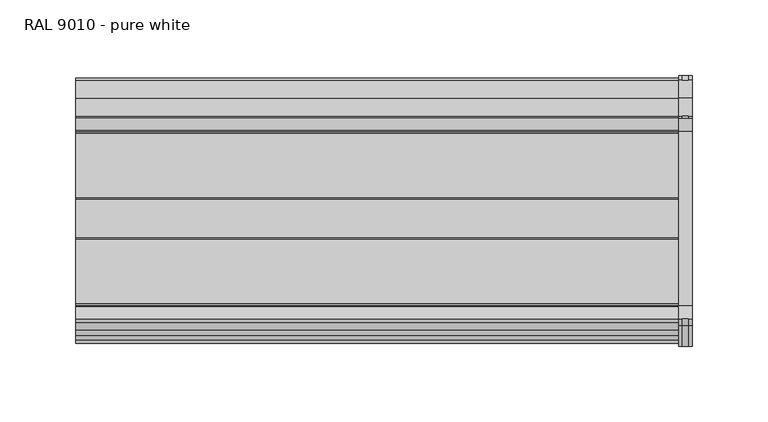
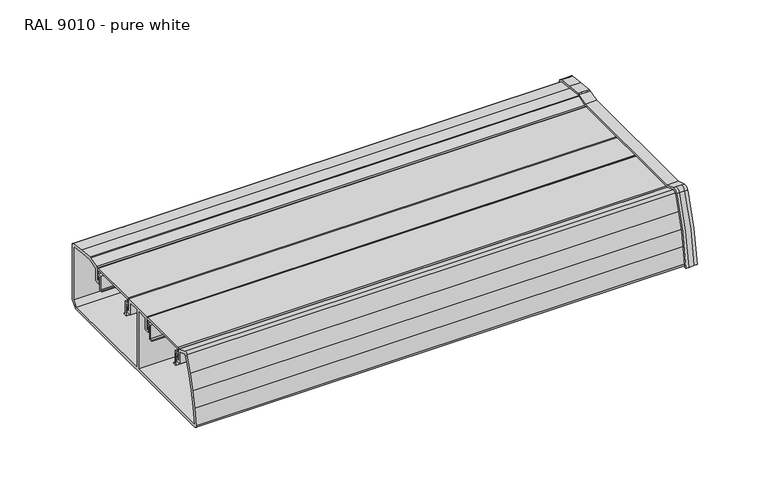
"""IFC4 building model written with IfcOpenShell, lengths in millimetres: proxy geometry, Electrical_Installations_Hager_GBD-Curved-Lid-End-Cap : RAL 9010 - pure white."""

import ifcopenshell
import ifcopenshell.guid

model = None  # the IFC model being written
_history = None  # IfcOwnerHistory: only IFC2X3 demands one
_inside = {}  # id of a spatial element -> (the spatial element, [elements in it])
_under = {}  # id of a project, library or spatial element -> (it, [spatial elements below it])
_declared = {}  # id of a project -> (the project, [libraries it declares])
_typed = {}  # id of a type object -> (the type object, [elements of that type])
_made_of = {}  # id of a material, layer set ... -> (it, [elements and type objects made of it])


def new_model(schema):
    """Start an empty IFC model of exactly this schema.

    Asked for "IFC4X3", IfcOpenShell would pick the latest addendum, in which some entities
    have other attributes; the version numbers below select the first issue.
    IFC2X3 requires an IfcOwnerHistory on every rooted entity: one is made here for all.
    """
    global model, _history
    if schema == "IFC4X3":
        model = ifcopenshell.file(schema_version=(4, 3, 0, 0))
    else:
        model = ifcopenshell.file(schema=schema)
    _inside.clear()
    _under.clear()
    _declared.clear()
    _typed.clear()
    _made_of.clear()
    _history = None
    if model.schema == "IFC2X3":
        org = make("IfcOrganization", Name="unknown")
        user = make(
            "IfcPersonAndOrganization",
            ThePerson=make("IfcPerson", FamilyName="unknown"),
            TheOrganization=org,
        )
        app = make(
            "IfcApplication",
            ApplicationDeveloper=org,
            Version="unknown",
            ApplicationFullName="unknown",
            ApplicationIdentifier="unknown",
        )
        _history = make(
            "IfcOwnerHistory",
            OwningUser=user,
            OwningApplication=app,
            ChangeAction="ADDED",
            CreationDate=0,
        )
    return model


def make(cls, **values):
    """One entity of the class cls with the attributes given. An attribute that is None is left unset."""
    return model.create_entity(
        cls, **{name: value for name, value in values.items() if value is not None}
    )


def rooted(cls, **values):
    """An entity with a GlobalId (a new one), such as an element, a storey or a relation."""
    return make(cls, GlobalId=ifcopenshell.guid.new(), OwnerHistory=_history, **values)


def si_unit(unit_type, name, prefix=None):
    """IfcSIUnit, for example si_unit("LENGTHUNIT", "METRE", prefix="MILLI")."""
    return make("IfcSIUnit", UnitType=unit_type, Prefix=prefix, Name=name)


def assignment(units):
    """IfcUnitAssignment: the units of a project."""
    return None if units is None else make("IfcUnitAssignment", Units=units)


def point(xyz):
    """IfcCartesianPoint."""
    return None if xyz is None else make("IfcCartesianPoint", Coordinates=xyz)


def direction(xyz):
    """IfcDirection."""
    return None if xyz is None else make("IfcDirection", DirectionRatios=xyz)


def frame(location, z_axis=None, x_axis=None):
    """IfcAxis2Placement3D, a coordinate frame: its origin and axes. An axis left out is left unset."""
    return make(
        "IfcAxis2Placement3D",
        Location=point(location),
        Axis=direction(z_axis),
        RefDirection=direction(x_axis),
    )


def frame_2d(location, x_axis=None):
    """IfcAxis2Placement2D, a coordinate frame in the plane: its origin and x axis."""
    return make(
        "IfcAxis2Placement2D", Location=point(location), RefDirection=direction(x_axis)
    )


def origin():
    """The frame at (0, 0, 0) with its axes left unset."""
    return frame((0.0, 0.0, 0.0))


def place(relative_to, where):
    """IfcLocalPlacement: puts the frame where relative to a parent placement (None: the world)."""
    return make(
        "IfcLocalPlacement", PlacementRelTo=relative_to, RelativePlacement=where
    )


def context(
    kind, dimensions, precision=None, world=None, true_north=None, identifier=None
):
    """IfcGeometricRepresentationContext, for example the 3D "Model" context."""
    return make(
        "IfcGeometricRepresentationContext",
        ContextIdentifier=identifier,
        ContextType=kind,
        CoordinateSpaceDimension=dimensions,
        Precision=precision,
        WorldCoordinateSystem=world,
        TrueNorth=true_north,
    )


def project(units=None, contexts=None):
    """IfcProject with its units and contexts."""
    return rooted(
        "IfcProject",
        Name="project",
        RepresentationContexts=contexts,
        UnitsInContext=assignment(units),
    )


def spatial(cls, under=None, at=None, **own):
    """A site, building, storey or space (cls), placed at a placement, below another one or the project."""
    s = rooted(cls, ObjectPlacement=at, **own)
    if under is not None:
        _under.setdefault(under.id(), (under, []))[1].append(s)
    return s


def polyline(points):
    """IfcPolyline through the points."""
    return make("IfcPolyline", Points=[point(p) for p in points])


def circle_curve(where, radius):
    """IfcCircle in the frame where."""
    return make("IfcCircle", Position=where, Radius=radius)


def trimmed(basis, trim1, trim2, sense, master):
    """IfcTrimmedCurve: the piece of a basis curve between two trims."""
    return make(
        "IfcTrimmedCurve",
        BasisCurve=basis,
        Trim1=trim1,
        Trim2=trim2,
        SenseAgreement=sense,
        MasterRepresentation=master,
    )


def segment(curve, same_sense, transition):
    """IfcCompositeCurveSegment."""
    return make(
        "IfcCompositeCurveSegment",
        Transition=transition,
        SameSense=same_sense,
        ParentCurve=curve,
    )


def composite_curve(segments, self_intersect=None):
    """IfcCompositeCurve: segments joined end to end."""
    return make("IfcCompositeCurve", Segments=segments, SelfIntersect=self_intersect)


def outline(outer, holes=None, kind="AREA"):
    """IfcArbitraryClosedProfileDef: a profile drawn as a closed curve; with holes, ...WithVoids."""
    if holes is None:
        return make("IfcArbitraryClosedProfileDef", ProfileType=kind, OuterCurve=outer)
    return make(
        "IfcArbitraryProfileDefWithVoids",
        ProfileType=kind,
        OuterCurve=outer,
        InnerCurves=holes,
    )


def extrude(swept, where, along, depth):
    """IfcExtrudedAreaSolid: the profile swept, set in the frame where, extruded along a direction by depth."""
    return make(
        "IfcExtrudedAreaSolid",
        SweptArea=swept,
        Position=where,
        ExtrudedDirection=direction(along),
        Depth=depth,
    )


def shape(context_of_items, identifier, shape_type, items):
    """IfcShapeRepresentation: the items that make up one representation, for example the "Body"."""
    return make(
        "IfcShapeRepresentation",
        ContextOfItems=context_of_items,
        RepresentationIdentifier=identifier,
        RepresentationType=shape_type,
        Items=items,
    )


def source(mapping_origin, context_of_items, identifier, shape_type, items):
    """IfcRepresentationMap: a shape defined once, which mapped items show again and again."""
    return make(
        "IfcRepresentationMap",
        MappingOrigin=mapping_origin,
        MappedRepresentation=shape(context_of_items, identifier, shape_type, items),
    )


def transform(
    local_origin,
    x_axis=None,
    y_axis=None,
    z_axis=None,
    scale=None,
    scale2=None,
    scale3=None,
    uniform=True,
):
    """IfcCartesianTransformationOperator3D, or its non-uniform kind. x_axis, y_axis, z_axis: its Axis1, 2, 3."""
    if uniform:
        return make(
            "IfcCartesianTransformationOperator3D",
            Axis1=direction(x_axis),
            Axis2=direction(y_axis),
            LocalOrigin=point(local_origin),
            Scale=scale,
            Axis3=direction(z_axis),
        )
    return make(
        "IfcCartesianTransformationOperator3DnonUniform",
        Axis1=direction(x_axis),
        Axis2=direction(y_axis),
        LocalOrigin=point(local_origin),
        Scale=scale,
        Axis3=direction(z_axis),
        Scale2=scale2,
        Scale3=scale3,
    )


def mapped(mapping_source, mapping_target):
    """IfcMappedItem: shows the shape of a source again, moved by a transform."""
    return make(
        "IfcMappedItem", MappingSource=mapping_source, MappingTarget=mapping_target
    )


def made_of(thing, what):
    """Note that an element or type object is made of a material, layer set ...; save() writes the relation."""
    if what is not None:
        _made_of.setdefault(what.id(), (what, []))[1].append(thing)
    return thing


def element(
    cls,
    number,
    at=None,
    inside=None,
    cuts=None,
    type_object=None,
    material=None,
    context=None,
    identifier="Body",
    shape_type=None,
    held_by="IfcProductDefinitionShape",
    body=None,
    shapes=None,
    **own,
):
    """One element of the class cls, such as IfcWall. Its Tag is "e" and its number.

    at: its placement. inside: the storey or other place that contains it. cuts: it is an
    opening in that element (IfcRelVoidsElement). A single representation is given by context,
    identifier, shape_type and body (its items); several are given by shapes. held_by: the class
    of the entity that holds the representations. save() writes the other relations.
    """
    e = rooted(cls, Tag="e%d" % number, ObjectPlacement=at, **own)
    if body is not None:
        shapes = [shape(context, identifier, shape_type, body)]
    if shapes is not None:
        e.Representation = make(held_by, Representations=shapes)
    if inside is not None:
        _inside.setdefault(inside.id(), (inside, []))[1].append(e)
    if cuts is not None:
        rooted(
            "IfcRelVoidsElement", RelatingBuildingElement=cuts, RelatedOpeningElement=e
        )
    if type_object is not None:
        _typed.setdefault(type_object.id(), (type_object, []))[1].append(e)
    return made_of(e, material)


def aggregate(whole, parts):
    """IfcRelAggregates: a whole, such as a stair, and the parts it consists of."""
    return rooted("IfcRelAggregates", RelatingObject=whole, RelatedObjects=parts)


def save(model, path):
    """Write the relations noted so far, then the file.

    IfcRelAggregates (storeys below a building ...), IfcRelContainedInSpatialStructure (elements
    in a storey), IfcRelDefinesByType, IfcRelAssociatesMaterial and IfcRelDeclares: one each for
    every whole, place, type object, material and project.
    """
    for whole, parts in _under.values():
        aggregate(whole, parts)
    for where, things in _inside.values():
        rooted(
            "IfcRelContainedInSpatialStructure",
            RelatedElements=things,
            RelatingStructure=where,
        )
    for kind, things in _typed.values():
        rooted("IfcRelDefinesByType", RelatedObjects=things, RelatingType=kind)
    for what, things in _made_of.values():
        rooted("IfcRelAssociatesMaterial", RelatedObjects=things, RelatingMaterial=what)
    for by, libraries in _declared.values():
        rooted("IfcRelDeclares", RelatingContext=by, RelatedDefinitions=libraries)
    model.write(path)


def plane_surface(at):
    """IfcPlane: the flat surface through the origin of the frame at, square to its z axis."""
    return make("IfcPlane", Position=at)


def cylinder_surface(at, radius):
    """IfcCylindricalSurface: all points at the distance radius from the z axis of the frame at."""
    return make("IfcCylindricalSurface", Position=at, Radius=radius)


def revolved_surface(curve, axis_point, axis_direction):
    """IfcSurfaceOfRevolution: the curve turned about the line through axis_point along axis_direction."""
    return make(
        "IfcSurfaceOfRevolution",
        SweptCurve=make("IfcArbitraryOpenProfileDef", ProfileType="CURVE", Curve=curve),
        AxisPosition=make("IfcAxis1Placement", Location=point(axis_point), Axis=direction(axis_direction)),
    )


def advanced_brep(points, edges, surfaces, faces):
    """IfcAdvancedBrep: a solid bounded by faces that lie on surfaces and meet in shared edges.

    An edge is (start, end): straight between two places in points (the first is 0);
    or (start, end, curve); or (start, end, curve, False) where it runs against its curve.
    A face is (place in surfaces, loops), or (place, loops, False) where it looks against
    its surface's normal. A loop lists edges by number (the first is 1), with a minus sign
    where the edge is run from its end to its start. The first loop is the outer one.
    """
    corners = [point(p) for p in points]
    vertices = [make("IfcVertexPoint", VertexGeometry=c) for c in corners]
    made = []
    for start, end, *more in edges:
        made.append(
            make(
                "IfcEdgeCurve",
                EdgeStart=vertices[start],
                EdgeEnd=vertices[end],
                EdgeGeometry=more[0] if more else make("IfcPolyline", Points=[corners[start], corners[end]]),
                SameSense=more[1] if len(more) > 1 else True,
            )
        )
    hull = []
    for where, loops, *sense in faces:
        bounds = []
        for j, loop in enumerate(loops):
            ring = [make("IfcOrientedEdge", EdgeElement=made[abs(k) - 1], Orientation=k > 0) for k in loop]
            bounds.append(
                make(
                    "IfcFaceOuterBound" if j == 0 else "IfcFaceBound",
                    Bound=make("IfcEdgeLoop", EdgeList=ring),
                    Orientation=True,
                )
            )
        hull.append(make("IfcAdvancedFace", Bounds=bounds, FaceSurface=surfaces[where], SameSense=sense[0] if sense else True))
    return make("IfcAdvancedBrep", Outer=make("IfcClosedShell", CfsFaces=hull))


def ral_9010_pure_white_73966b3e(model_context):
    return source(origin(), model_context, "Body", "SolidModel", [
        extrude(outline(composite_curve([segment(polyline([(-56.2971023, 12.5), (56.2971023, 12.5)]), True, "CONTINUOUS"), segment(trimmed(circle_curve(frame_2d((56.2971023, 11.6099434)), 0.8900566), [point((56.2971023, 12.5))], [point((57.1568309, 11.840307))], False, "CARTESIAN"), True, "CONTINUOUS"), segment(polyline([(57.1568309, 11.840307), (61.5409562, -4.5214711), (64.3769076, -20.8259828)]), True, "CONTINUOUS"), segment(trimmed(circle_curve(frame_2d((63.389468, -20.9977347)), 1.0022653), [point((64.3769076, -20.8259828))], [point((63.389468, -22.0))], False, "CARTESIAN"), True, "CONTINUOUS"), segment(polyline([(63.389468, -22.0), (-63.389468, -22.0)]), True, "CONTINUOUS"), segment(trimmed(circle_curve(frame_2d((-63.389468, -20.9977347)), 1.0022653), [point((-63.389468, -22.0))], [point((-64.3769076, -20.8259828))], False, "CARTESIAN"), True, "CONTINUOUS"), segment(polyline([(-64.3769076, -20.8259828), (-61.5409562, -4.5214711), (-57.1568309, 11.840307)]), True, "CONTINUOUS"), segment(trimmed(circle_curve(frame_2d((-56.2971023, 11.6099434)), 0.8900566), [point((-57.1568309, 11.840307))], [point((-56.2971023, 12.5))], False, "CARTESIAN"), True, "CONTINUOUS")], self_intersect=False)), frame((403.984375, 0.0, 0.0), z_axis=(1.0, 0.0, 0.0), x_axis=(0.0, 1.0, 0.0)), (0.0, 0.0, 1.0), 2.5),
        advanced_brep(
        [(400.0, 82.4790938, -27.0), (400.0, -87.950009, -27.0), (400.0, -74.7139057, 28.7218397), (400.0, -71.8616711, 30.0629995), (400.0, -63.0502646, 27.2), (400.0, 52.4374875, 27.2), (400.0, 61.1100703, 30.017893), (400.0, 62.6440579, 30.1926688), (400.0, 74.1080217, 29.1897019), (400.0, 85.7835434, 27.4641372), (400.0, 87.5716104, 25.3259929), (400.0, 87.5716104, -21.9074834), (403.984375, -87.950009, -27.0), (403.984375, 82.4790938, -27.0), (403.984375, 87.5716104, -21.9074834), (403.984375, 87.5716104, 25.3259929), (403.984375, 85.7835434, 27.4641372), (403.984375, 74.1080217, 29.1897019), (403.984375, 62.6440579, 30.1926688), (403.984375, 61.1100703, 30.017893), (403.984375, 52.4374875, 27.2), (403.984375, -63.0502646, 27.2), (403.984375, -71.8616711, 30.0629995), (403.984375, -74.7139057, 28.7218397), (400.0, 86.0170743, 28.9997666), (403.984375, 86.0170743, 28.9997666), (403.984375, 89.0716104, 25.3713094), (400.0, 89.0716104, 25.3713094), (406.484375, 89.0716104, 25.3713094), (406.484375, 89.0716104, -22.0), (397.484375, 89.0716104, -22.0), (397.484375, 89.0716104, 25.3713094), (406.484375, 84.0716104, -27.0), (397.484375, 84.0716104, -27.0), (406.484375, 82.4790938, -27.0), (406.484375, -87.950009, -27.0), (406.484375, -89.4534138, -27.0), (403.984375, -89.4534138, -27.0), (400.0, -89.4534138, -27.0), (397.484375, -89.4534138, -27.0), (397.484375, -87.950009, -27.0), (397.484375, 82.4790938, -27.0), (403.984375, -76.0707812, 29.3458662), (400.0, -76.0707812, 29.3458662), (403.984375, -71.4543472, 31.5078453), (400.0, -71.4543472, 31.5078453), (406.484375, -71.4543472, 31.5078453), (406.484375, -62.8126879, 28.7), (397.484375, -62.8126879, 28.7), (397.484375, -71.4543472, 31.5078453), (406.484375, 52.1999109, 28.7), (397.484375, 52.1999109, 28.7), (406.484375, 60.8066211, 31.4964897), (403.984375, 60.8066211, 31.4964897), (400.0, 60.8066211, 31.4964897), (397.484375, 60.8066211, 31.4964897), (403.984375, 62.4516475, 31.6839168), (400.0, 62.4516475, 31.6839168), (406.484375, 62.4516475, 31.6839168), (406.484375, 74.2844253, 30.6486828), (397.484375, 74.2844253, 30.6486828), (397.484375, 62.4516475, 31.6839168), (397.484375, 86.0170743, 28.9997666), (406.484375, 86.0170743, 28.9997666), (397.484375, 87.5716104, -21.9074834), (397.484375, 87.5716104, 25.3259929), (397.484375, 85.7835434, 27.4641372), (397.484375, 74.1080217, 29.1897019), (397.484375, 62.6440579, 30.1926688), (397.484375, 61.1100703, 30.017893), (397.484375, 52.4374875, 27.2), (397.484375, -63.0502646, 27.2), (397.484375, -71.8616711, 30.0629995), (397.484375, -74.7139057, 28.7218397), (397.484375, -76.0707812, 29.3458662), (406.484375, -76.0707812, 29.3458662), (406.484375, -74.7139057, 28.7218397), (406.484375, -71.8616711, 30.0629995), (406.484375, -63.0502646, 27.2), (406.484375, 52.4374875, 27.2), (406.484375, 61.1100703, 30.017893), (406.484375, 62.6440579, 30.1926688), (406.484375, 74.1080217, 29.1897019), (406.484375, 85.7835434, 27.4641372), (406.484375, 87.5716104, 25.3259929), (406.484375, 87.5716104, -21.9074834)],
        [
            (0, 1),
            (1, 2, circle_curve(frame((400.0, 110.3369957, -44.6679083), z_axis=(-1.0, 0.0, 0.0), x_axis=(0.0, 1.0, 0.0)), 199.0725777)),
            (2, 3, circle_curve(frame((400.0, -72.5732824, 27.8728851), z_axis=(-1.0, 0.0, 0.0), x_axis=(0.0, 1.0, 0.0)), 2.3028226)),
            (3, 4),
            (4, 5),
            (5, 6),
            (6, 7, circle_curve(frame((400.0, 62.3065893, 26.3353861), z_axis=(-1.0, 0.0, 0.0), x_axis=(0.0, 1.0, 0.0)), 3.8720169)),
            (7, 8),
            (8, 9),
            (9, 10, circle_curve(frame((400.0, 85.3991961, 25.3259929), z_axis=(-1.0, 0.0, 0.0), x_axis=(0.0, 1.0, 0.0)), 2.1724143)),
            (10, 11),
            (11, 0),
            (12, 13),
            (13, 14),
            (14, 15),
            (15, 16, circle_curve(frame((403.984375, 85.3991961, 25.3259929), z_axis=(1.0, 0.0, 0.0), x_axis=(0.0, 1.0, 0.0)), 2.1724143)),
            (16, 17),
            (17, 18),
            (18, 19, circle_curve(frame((403.984375, 62.3065893, 26.3353861), z_axis=(1.0, 0.0, 0.0), x_axis=(0.0, 1.0, 0.0)), 3.8720169)),
            (19, 20),
            (20, 21),
            (21, 22),
            (22, 23, circle_curve(frame((403.984375, -72.5732824, 27.8728851), z_axis=(1.0, 0.0, 0.0), x_axis=(0.0, 1.0, 0.0)), 2.3028226)),
            (23, 12, circle_curve(frame((403.984375, 110.3369957, -44.6679083), z_axis=(1.0, 0.0, 0.0), x_axis=(0.0, 1.0, 0.0)), 199.0725777)),
            (24, 25),
            (25, 26, circle_curve(frame((403.984375, 85.3892358, 25.3713094), z_axis=(-1.0, 0.0, 0.0), x_axis=(0.0, 1.0, 0.0)), 3.6823746)),
            (26, 27),
            (27, 24, circle_curve(frame((400.0, 85.3892358, 25.3713094), z_axis=(1.0, 0.0, 0.0), x_axis=(0.0, 1.0, 0.0)), 3.6823746)),
            (26, 28),
            (28, 29),
            (29, 30),
            (30, 31),
            (31, 27),
            (29, 32),
            (32, 33),
            (33, 30),
            (32, 34),
            (34, 13),
            (12, 35),
            (35, 36),
            (36, 37),
            (37, 38),
            (38, 39),
            (39, 40),
            (40, 1),
            (0, 41),
            (41, 33),
            (37, 42, circle_curve(frame((403.984375, 106.8832578, -43.8694858), z_axis=(-1.0, 0.0, 0.0), x_axis=(0.0, 1.0, 0.0)), 197.0600623)),
            (42, 43),
            (43, 38, circle_curve(frame((400.0, 106.8832578, -43.8694858), z_axis=(1.0, 0.0, 0.0), x_axis=(0.0, 1.0, 0.0)), 197.0600623)),
            (42, 44, circle_curve(frame((403.984375, -72.607181, 27.9597874), z_axis=(-1.0, 0.0, 0.0), x_axis=(0.0, 1.0, 0.0)), 3.7306488)),
            (44, 45),
            (45, 43, circle_curve(frame((400.0, -72.607181, 27.9597874), z_axis=(1.0, 0.0, 0.0), x_axis=(0.0, 1.0, 0.0)), 3.7306488)),
            (44, 46),
            (46, 47),
            (47, 48),
            (48, 49),
            (49, 45),
            (47, 50),
            (50, 51),
            (51, 48),
            (50, 52),
            (52, 53),
            (53, 54),
            (54, 55),
            (55, 51),
            (53, 56, circle_curve(frame((403.984375, 62.0897511, 27.5474216), z_axis=(-1.0, 0.0, 0.0), x_axis=(0.0, 1.0, 0.0)), 4.1522959)),
            (56, 57),
            (57, 54, circle_curve(frame((400.0, 62.0897511, 27.5474216), z_axis=(1.0, 0.0, 0.0), x_axis=(0.0, 1.0, 0.0)), 4.1522959)),
            (56, 58),
            (58, 59),
            (59, 60),
            (60, 61),
            (61, 57),
            (24, 62),
            (62, 60),
            (59, 63),
            (63, 25),
            (41, 64),
            (64, 65),
            (65, 66, circle_curve(frame((397.484375, 85.3991961, 25.3259929), z_axis=(1.0, 0.0, 0.0), x_axis=(0.0, 1.0, 0.0)), 2.1724143)),
            (66, 67),
            (67, 68),
            (68, 69, circle_curve(frame((397.484375, 62.3065893, 26.3353861), z_axis=(1.0, 0.0, 0.0), x_axis=(0.0, 1.0, 0.0)), 3.8720169)),
            (69, 70),
            (70, 71),
            (71, 72),
            (72, 73, circle_curve(frame((397.484375, -72.5732824, 27.8728851), z_axis=(1.0, 0.0, 0.0), x_axis=(0.0, 1.0, 0.0)), 2.3028226)),
            (73, 40, circle_curve(frame((397.484375, 110.3369957, -44.6679083), z_axis=(1.0, 0.0, 0.0), x_axis=(0.0, 1.0, 0.0)), 199.0725777)),
            (39, 74, circle_curve(frame((397.484375, 106.8832578, -43.8694858), z_axis=(-1.0, 0.0, 0.0), x_axis=(0.0, 1.0, 0.0)), 197.0600623)),
            (74, 49, circle_curve(frame((397.484375, -72.607181, 27.9597874), z_axis=(-1.0, 0.0, 0.0), x_axis=(0.0, 1.0, 0.0)), 3.7306488)),
            (55, 61, circle_curve(frame((397.484375, 62.0897511, 27.5474216), z_axis=(-1.0, 0.0, 0.0), x_axis=(0.0, 1.0, 0.0)), 4.1522959)),
            (62, 31, circle_curve(frame((397.484375, 85.3892358, 25.3713094), z_axis=(-1.0, 0.0, 0.0), x_axis=(0.0, 1.0, 0.0)), 3.6823746)),
            (28, 63, circle_curve(frame((406.484375, 85.3892358, 25.3713094), z_axis=(1.0, 0.0, 0.0), x_axis=(0.0, 1.0, 0.0)), 3.6823746)),
            (58, 52, circle_curve(frame((406.484375, 62.0897511, 27.5474216), z_axis=(1.0, 0.0, 0.0), x_axis=(0.0, 1.0, 0.0)), 4.1522959)),
            (46, 75, circle_curve(frame((406.484375, -72.607181, 27.9597874), z_axis=(1.0, 0.0, 0.0), x_axis=(0.0, 1.0, 0.0)), 3.7306488)),
            (75, 36, circle_curve(frame((406.484375, 106.8832578, -43.8694858), z_axis=(1.0, 0.0, 0.0), x_axis=(0.0, 1.0, 0.0)), 197.0600623)),
            (35, 76, circle_curve(frame((406.484375, 110.3369957, -44.6679083), z_axis=(-1.0, 0.0, 0.0), x_axis=(0.0, 1.0, 0.0)), 199.0725777)),
            (76, 77, circle_curve(frame((406.484375, -72.5732824, 27.8728851), z_axis=(-1.0, 0.0, 0.0), x_axis=(0.0, 1.0, 0.0)), 2.3028226)),
            (77, 78),
            (78, 79),
            (79, 80),
            (80, 81, circle_curve(frame((406.484375, 62.3065893, 26.3353861), z_axis=(-1.0, 0.0, 0.0), x_axis=(0.0, 1.0, 0.0)), 3.8720169)),
            (81, 82),
            (82, 83),
            (83, 84, circle_curve(frame((406.484375, 85.3991961, 25.3259929), z_axis=(-1.0, 0.0, 0.0), x_axis=(0.0, 1.0, 0.0)), 2.1724143)),
            (84, 85),
            (85, 34),
            (11, 64),
            (85, 14),
            (10, 65),
            (84, 15),
            (9, 66),
            (83, 16),
            (70, 5),
            (4, 71),
            (78, 21),
            (20, 79),
            (3, 72),
            (77, 22),
            (2, 73),
            (76, 23),
            (43, 74),
            (75, 42),
            (8, 67),
            (82, 17),
            (7, 68),
            (81, 18),
            (6, 69),
            (80, 19),
        ],
        [
            plane_surface(frame((400.0, 0.0, 0.0), z_axis=(-1.0, 0.0, 0.0), x_axis=(0.0, 0.0, 1.0))),
            plane_surface(frame((403.984375, 0.0, 0.0), z_axis=(1.0, 0.0, 0.0), x_axis=(0.0, 0.0, 1.0))),
            cylinder_surface(frame((400.0, 85.3892358, 25.3713094), z_axis=(-1.0, 0.0, 0.0), x_axis=(0.0, 1.0, 0.0)), 3.6823746),
            plane_surface(frame((400.0, 89.0716104, 25.3713094), z_axis=(0.0, 1.0, 0.0), x_axis=(1.0, 0.0, 0.0))),
            plane_surface(frame((400.0, 89.0716104, -22.0), z_axis=(0.0, 0.707106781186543, -0.707106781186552), x_axis=(1.0, 0.0, 0.0))),
            plane_surface(frame((400.0, 84.0716104, -27.0), z_axis=(0.0, 0.0, -1.0), x_axis=(1.0, 0.0, 0.0))),
            cylinder_surface(frame((400.0, 106.8832578, -43.8694858), z_axis=(-1.0, 0.0, 0.0), x_axis=(0.0, 1.0, 0.0)), 197.0600623),
            cylinder_surface(frame((400.0, -72.607181, 27.9597874), z_axis=(-1.0, 0.0, 0.0), x_axis=(0.0, 1.0, 0.0)), 3.7306488),
            plane_surface(frame((400.0, -71.4543472, 31.5078453), z_axis=(0.0, 0.30901699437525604, 0.9510565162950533), x_axis=(1.0, 0.0, 0.0))),
            plane_surface(frame((400.0, -62.8126879, 28.7), z_axis=(0.0, 0.0, 1.0), x_axis=(1.0, 0.0, 0.0))),
            plane_surface(frame((400.0, 52.1999109, 28.7), z_axis=(0.0, -0.30901699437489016, 0.9510565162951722), x_axis=(1.0, 0.0, 0.0))),
            cylinder_surface(frame((400.0, 62.0897511, 27.5474216), z_axis=(-1.0, 0.0, 0.0), x_axis=(0.0, 1.0, 0.0)), 4.1522959),
            plane_surface(frame((400.0, 62.4516475, 31.6839168), z_axis=(0.0, 0.0871557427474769, 0.9961946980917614), x_axis=(1.0, 0.0, 0.0))),
            plane_surface(frame((400.0, 74.2844253, 30.6486828), z_axis=(0.0, 0.1391731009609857, 0.990268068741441), x_axis=(1.0, 0.0, 0.0))),
            plane_surface(frame((397.484375, 0.0, 0.0), z_axis=(-1.0, 0.0, 0.0), x_axis=(0.0, 0.0, 1.0))),
            plane_surface(frame((406.484375, 0.0, 0.0), z_axis=(1.0, 0.0, 0.0), x_axis=(0.0, 0.0, 1.0))),
            cylinder_surface(frame((397.484375, 85.3892358, 25.3713094), z_axis=(-1.0, 0.0, 0.0), x_axis=(0.0, 1.0, 0.0)), 3.6823746),
            plane_surface(frame((397.484375, 82.4790938, -27.0), z_axis=(0.0, -0.7071067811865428, 0.7071067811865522), x_axis=(1.0, 0.0, 0.0))),
            plane_surface(frame((397.484375, 87.5716104, -21.9074834), z_axis=(0.0, -1.0, 0.0), x_axis=(1.0, 0.0, 0.0))),
            revolved_surface(polyline([(400.0, 87.5716104, 25.3259929), (397.484375, 87.5716104, 25.3259929)]), (397.484375, 85.3991961, 25.3259929), (1.0, 0.0, 0.0)),
            revolved_surface(polyline([(406.484375, 87.5716104, 25.3259929), (403.984375, 87.5716104, 25.3259929)]), (397.484375, 85.3991961, 25.3259929), (1.0, 0.0, 0.0)),
            plane_surface(frame((397.484375, 52.4374875, 27.2), z_axis=(0.0, 0.0, -1.0), x_axis=(1.0, 0.0, 0.0))),
            plane_surface(frame((397.484375, -63.0502646, 27.2), z_axis=(0.0, -0.3090169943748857, -0.9510565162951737), x_axis=(1.0, 0.0, 0.0))),
            revolved_surface(polyline([(400.0, -70.2704598, 27.8728851), (397.484375, -70.2704598, 27.8728851)]), (397.484375, -72.5732824, 27.8728851), (1.0, 0.0, 0.0)),
            revolved_surface(polyline([(406.484375, -70.2704598, 27.8728851), (403.984375, -70.2704598, 27.8728851)]), (397.484375, -72.5732824, 27.8728851), (1.0, 0.0, 0.0)),
            revolved_surface(polyline([(400.0, 309.4095734, -44.6679083), (397.484375, 309.4095734, -44.6679083)]), (397.484375, 110.3369957, -44.6679083), (1.0, 0.0, 0.0)),
            revolved_surface(polyline([(406.484375, 309.4095734, -44.6679083), (403.984375, 309.4095734, -44.6679083)]), (397.484375, 110.3369957, -44.6679083), (1.0, 0.0, 0.0)),
            cylinder_surface(frame((397.484375, 106.8832578, -43.8694858), z_axis=(-1.0, 0.0, 0.0), x_axis=(0.0, 1.0, 0.0)), 197.0600623),
            cylinder_surface(frame((397.484375, -72.607181, 27.9597874), z_axis=(-1.0, 0.0, 0.0), x_axis=(0.0, 1.0, 0.0)), 3.7306488),
            plane_surface(frame((397.484375, 85.7835434, 27.4641372), z_axis=(0.0, -0.1462052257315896, -0.9892542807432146), x_axis=(1.0, 0.0, 0.0))),
            plane_surface(frame((397.484375, 74.1080217, 29.1897019), z_axis=(0.0, -0.08715574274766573, -0.9961946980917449), x_axis=(1.0, 0.0, 0.0))),
            revolved_surface(polyline([(400.0, 66.1786062, 26.3353861), (397.484375, 66.1786062, 26.3353861)]), (397.484375, 62.3065893, 26.3353861), (1.0, 0.0, 0.0)),
            revolved_surface(polyline([(406.484375, 66.1786062, 26.3353861), (403.984375, 66.1786062, 26.3353861)]), (397.484375, 62.3065893, 26.3353861), (1.0, 0.0, 0.0)),
            plane_surface(frame((397.484375, 61.1100703, 30.017893), z_axis=(0.0, 0.3090169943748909, -0.951056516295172), x_axis=(1.0, 0.0, 0.0))),
            cylinder_surface(frame((397.484375, 62.0897511, 27.5474216), z_axis=(-1.0, 0.0, 0.0), x_axis=(0.0, 1.0, 0.0)), 4.1522959),
        ],
        [
            (0, [[1, 2, 3, 4, 5, 6, 7, 8, 9, 10, 11, 12]]),
            (1, [[13, 14, 15, 16, 17, 18, 19, 20, 21, 22, 23, 24]]),
            (2, [[25, 26, 27, 28]]),
            (3, [[-27, 29, 30, 31, 32, 33]]),
            (4, [[-31, 34, 35, 36]]),
            (5, [[-35, 37, 38, -13, 39, 40, 41, 42, 43, 44, 45, -1, 46, 47]]),
            (6, [[-42, 48, 49, 50]]),
            (7, [[-49, 51, 52, 53]]),
            (8, [[-52, 54, 55, 56, 57, 58]]),
            (9, [[-56, 59, 60, 61]]),
            (10, [[-60, 62, 63, 64, 65, 66]]),
            (11, [[-64, 67, 68, 69]]),
            (12, [[-68, 70, 71, 72, 73, 74]]),
            (13, [[-25, 75, 76, -72, 77, 78]]),
            (14, [[-32, -36, -47, 79, 80, 81, 82, 83, 84, 85, 86, 87, 88, 89, -44, 90, 91, -57, -61, -66, 92, -73, -76, 93]]),
            (15, [[94, -77, -71, 95, -62, -59, -55, 96, 97, -40, 98, 99, 100, 101, 102, 103, 104, 105, 106, 107, 108, -37, -34, -30]]),
            (16, [[-93, -75, -28, -33]]),
            (16, [[-94, -29, -26, -78]]),
            (17, [[-79, -46, -12, 109]]),
            (17, [[-108, 110, -14, -38]]),
            (18, [[-80, -109, -11, 111]]),
            (18, [[-107, 112, -15, -110]]),
            (19, [[-81, -111, -10, 113]]),
            (20, [[-106, 114, -16, -112]]),
            (21, [[-86, 115, -5, 116]]),
            (21, [[-101, 117, -21, 118]]),
            (22, [[-87, -116, -4, 119]]),
            (22, [[-100, 120, -22, -117]]),
            (23, [[-88, -119, -3, 121]]),
            (24, [[-99, 122, -23, -120]]),
            (25, [[-89, -121, -2, -45]]),
            (26, [[-98, -39, -24, -122]]),
            (27, [[-90, -43, -50, 123]]),
            (27, [[-97, 124, -48, -41]]),
            (28, [[-91, -123, -53, -58]]),
            (28, [[-96, -54, -51, -124]]),
            (29, [[-82, -113, -9, 125]]),
            (29, [[-105, 126, -17, -114]]),
            (30, [[-83, -125, -8, 127]]),
            (30, [[-104, 128, -18, -126]]),
            (31, [[-84, -127, -7, 129]]),
            (32, [[-103, 130, -19, -128]]),
            (33, [[-85, -129, -6, -115]]),
            (33, [[-102, -118, -20, -130]]),
            (34, [[-92, -65, -69, -74]]),
            (34, [[-95, -70, -67, -63]]),
        ],
    ),
        extrude(outline(composite_curve([segment(polyline([(-85.2368553, -25.0), (-6.25, -25.0), (-6.25, 25.0), (-15.95, 25.0), (-15.95, 14.96875), (-20.25, 14.96875), (-20.25, 18.7637258), (-19.25, 18.7637258), (-19.25, 16.3), (-17.75, 16.3), (-17.75, 27.0), (7.25, 27.0), (7.25, 16.3), (8.75, 16.3), (8.75, 18.7441115), (9.75, 18.7441115), (9.75, 14.5), (5.45, 14.5), (5.45, 25.0), (-4.25, 25.0), (-4.25, -25.0), (81.2473088, -25.0), (85.2, -21.0473088), (85.2, 25.0790901), (73.4084992, 26.7822965), (61.8792753, 27.7103781), (54.05, 25.1664923), (54.05, 14.5), (49.75, 14.5), (49.75, 18.7391101), (50.75, 18.7391101), (50.75, 16.3), (52.25, 16.3), (52.25, 26.2703589)]), True, "CONTINUOUS"), segment(trimmed(circle_curve(frame_2d((53.2542649, 26.2703589)), 1.0042649), [point((52.25, 26.2703589))], [point((52.94393, 27.2254715))], False, "CARTESIAN"), True, "CONTINUOUS"), segment(polyline([(52.94393, 27.2254715), (61.1647105, 29.896565)]), True, "CONTINUOUS"), segment(trimmed(circle_curve(frame_2d((61.8535718, 27.776468)), 2.229202), [point((61.1647105, 29.896565))], [point((62.0324399, 29.9984823))], False, "CARTESIAN"), True, "CONTINUOUS"), segment(polyline([(62.0324399, 29.9984823), (73.960524, 29.0382932), (85.7542621, 27.3347636)]), True, "CONTINUOUS"), segment(trimmed(circle_curve(frame_2d((85.4630616, 25.3187476)), 2.0369384), [point((85.7542621, 27.3347636))], [point((87.5, 25.3187476))], False, "CARTESIAN"), True, "CONTINUOUS"), segment(polyline([(87.5, 25.3187476), (87.5, -22.0), (82.5, -27.0), (-85.4371356, -27.0)]), True, "CONTINUOUS"), segment(trimmed(circle_curve(frame_2d((-85.4371356, -24.9109785)), 2.0890215), [point((-85.4371356, -27.0))], [point((-87.5045544, -24.6113283))], False, "CARTESIAN"), True, "CONTINUOUS"), segment(polyline([(-87.5045544, -24.6113283), (-85.4928777, -10.7318848), (-82.665273, 2.5001298), (-78.9366987, 15.5032139), (-74.2325269, 28.6175358)]), True, "CONTINUOUS"), segment(trimmed(circle_curve(frame_2d((-72.2816269, 27.9177383)), 2.0726137), [point((-74.2325269, 28.6175358))], [point((-71.641154, 29.8889111))], False, "CARTESIAN"), True, "CONTINUOUS"), segment(polyline([(-71.641154, 29.8889111), (-63.6327057, 27.2868085)]), True, "CONTINUOUS"), segment(trimmed(circle_curve(frame_2d((-63.9575866, 26.286928)), 1.0513366), [point((-63.6327057, 27.2868085))], [point((-62.90625, 26.286928))], False, "CARTESIAN"), True, "CONTINUOUS"), segment(polyline([(-62.90625, 26.286928), (-62.90625, 16.3), (-61.25, 16.3), (-61.25, 18.7177382), (-60.25, 18.7177382), (-60.25, 14.96875), (-64.55, 14.96875), (-64.55, 25.1664923), (-72.1420805, 27.6333088), (-76.7464574, 14.7971958), (-80.4325779, 1.9421659), (-83.2276507, -11.1376133), (-85.2368553, -25.0)]), True, "CONTINUOUS")], self_intersect=False)), frame((0.0, 0.0, 0.0), z_axis=(1.0, 0.0, 0.0), x_axis=(0.0, 1.0, 0.0)), (0.0, 0.0, 1.0), 400.0),
        extrude(outline(composite_curve([segment(polyline([(-19.317297, 25.7013932), (-61.217297, 25.7013932), (-61.217297, 22.4013932), (-57.767297, 22.4013932), (-57.767297, 10.8013932), (-55.867297, 10.8013932), (-55.867297, 10.0013932), (-58.767297, 10.0013932), (-58.767297, 21.4013932), (-61.5204385, 21.4013932), (-61.5204385, 17.0930522), (-62.5219845, 17.0930522), (-62.5219845, 26.2097868)]), True, "CONTINUOUS"), segment(trimmed(circle_curve(frame_2d((-61.6120226, 26.2097868)), 0.9099619), [point((-62.5219845, 26.2097868))], [point((-61.6120226, 27.1197487))], False, "CARTESIAN"), True, "CONTINUOUS"), segment(polyline([(-61.6120226, 27.1197487), (-19.1379774, 27.1197487)]), True, "CONTINUOUS"), segment(trimmed(circle_curve(frame_2d((-19.1379774, 26.1115683)), 1.0081804), [point((-19.1379774, 27.1197487))], [point((-18.129797, 26.1115683))], False, "CARTESIAN"), True, "CONTINUOUS"), segment(polyline([(-18.129797, 26.1115683), (-18.129797, 17.0930522), (-19.0141556, 17.0930522), (-19.0141556, 21.4013932), (-21.767297, 21.4013932), (-21.767297, 10.0013932), (-24.667297, 10.0013932), (-24.667297, 10.8013932), (-22.767297, 10.8013932), (-22.767297, 22.4013932), (-19.317297, 22.4013932), (-19.317297, 25.7013932)]), True, "CONTINUOUS")], self_intersect=False)), frame((0.0, 0.0, 0.0), z_axis=(1.0, 0.0, 0.0), x_axis=(0.0, 1.0, 0.0)), (0.0, 0.0, 1.0), 400.0),
        extrude(outline(composite_curve([segment(polyline([(50.7405963, 25.7013932), (8.8405963, 25.7013932), (8.8405963, 22.4013932), (12.2905963, 22.4013932), (12.2905963, 10.8013932), (14.1905963, 10.8013932), (14.1905963, 10.0013932), (11.2905963, 10.0013932), (11.2905963, 21.4013932), (8.5374548, 21.4013932), (8.5374548, 17.0930522), (7.5359088, 17.0930522), (7.5359088, 26.2097868)]), True, "CONTINUOUS"), segment(trimmed(circle_curve(frame_2d((8.4458707, 26.2097868)), 0.9099619), [point((7.5359088, 26.2097868))], [point((8.4458707, 27.1197487))], False, "CARTESIAN"), True, "CONTINUOUS"), segment(polyline([(8.4458707, 27.1197487), (50.9199159, 27.1197487)]), True, "CONTINUOUS"), segment(trimmed(circle_curve(frame_2d((50.9199159, 26.1115683)), 1.0081804), [point((50.9199159, 27.1197487))], [point((51.9280963, 26.1115683))], False, "CARTESIAN"), True, "CONTINUOUS"), segment(polyline([(51.9280963, 26.1115683), (51.9280963, 17.0930522), (51.0437378, 17.0930522), (51.0437378, 21.4013932), (48.2905963, 21.4013932), (48.2905963, 10.0013932), (45.3905963, 10.0013932), (45.3905963, 10.8013932), (47.2905963, 10.8013932), (47.2905963, 22.4013932), (50.7405963, 22.4013932), (50.7405963, 25.7013932)]), True, "CONTINUOUS")], self_intersect=False)), frame((0.0, 0.0, 0.0), z_axis=(1.0, 0.0, 0.0), x_axis=(0.0, 1.0, 0.0)), (0.0, 0.0, 1.0), 400.0),
    ])


if __name__ == "__main__":
    model = new_model("IFC4")
    model_context = context("Model", 3, world=origin())
    ifc_project = project(units=[si_unit("LENGTHUNIT", "METRE", prefix="MILLI")], contexts=[model_context])
    site = spatial("IfcSite", under=ifc_project)
    building = spatial("IfcBuilding", under=site)
    placement = place(None, origin())
    ral_9010_pure_white_shape = ral_9010_pure_white_73966b3e(model_context)
    element("IfcBuildingElementProxy", 1, Name="Electrical_Installations_Hager_GBD-Curved-Lid-End-Cap : RAL 9010 - pure white", ObjectType="Electrical_Installations_Hager_GBD-Curved-Lid-End-Cap : RAL 9010 - pure white", at=placement, inside=building, context=model_context, shape_type="MappedRepresentation", body=[
        mapped(ral_9010_pure_white_shape, transform((0.0, 0.0, 0.0), x_axis=(1.0, 0.0, 0.0), y_axis=(0.0, 1.0, 0.0), z_axis=(0.0, 0.0, 1.0))),
    ])
    save(model, "model.ifc")
